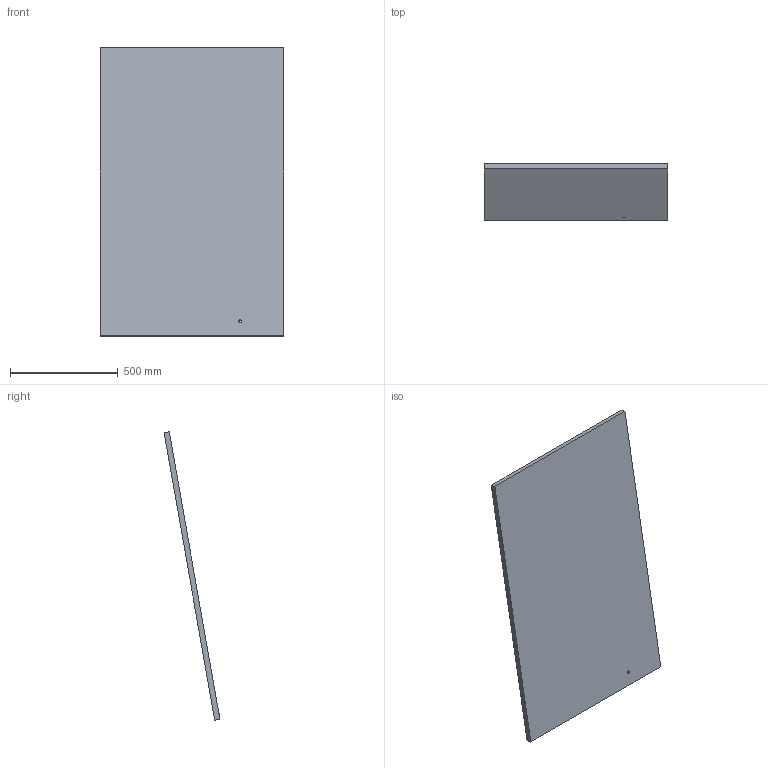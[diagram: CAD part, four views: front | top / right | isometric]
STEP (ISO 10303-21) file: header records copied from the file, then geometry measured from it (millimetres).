
FILE_DESCRIPTION(('golf model'),'2;1');
FILE_NAME('golf','',(''),(''),'golf_step_io','golf','');
FILE_SCHEMA(('AUTOMOTIVE_DESIGN { 1 0 10303 214 1 1 1 1 }'));
Length unit declared in the file: millimetre
Products named in the file (2): ASSEMBLY; bed.substrate.1
Assembly tree (1 placements, depth 2):
  ASSEMBLY
    bed.substrate.1
Bounding box: 854.77 x 259.77 x 1340.64 mm (x, y, z)
Volume: 28414949.5 mm3; surface area: 2428965.2 mm2
Topology: 1 solids, 1 shells, 7 faces, 15 edges, 10 vertices
Faces by surface type: plane 6, cylinder 1
Full cylindrical faces by diameter (mm): 13 x1
Entity records: 224 total; most frequent: DIRECTION 34, CARTESIAN_POINT 33, ORIENTED_EDGE 28, EDGE_CURVE 14, VECTOR 12, LINE 12, AXIS2_PLACEMENT_3D 11, VERTEX_POINT 10
